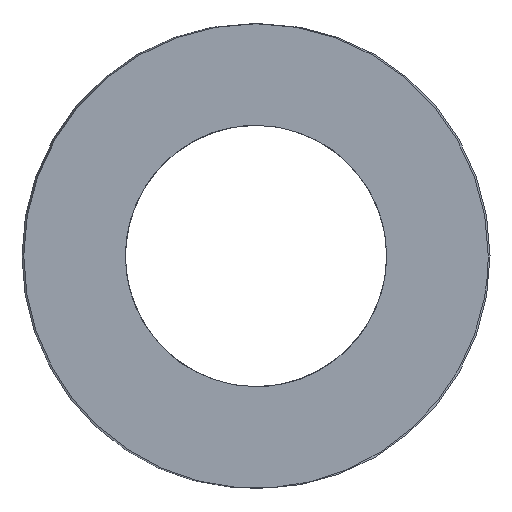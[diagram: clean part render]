
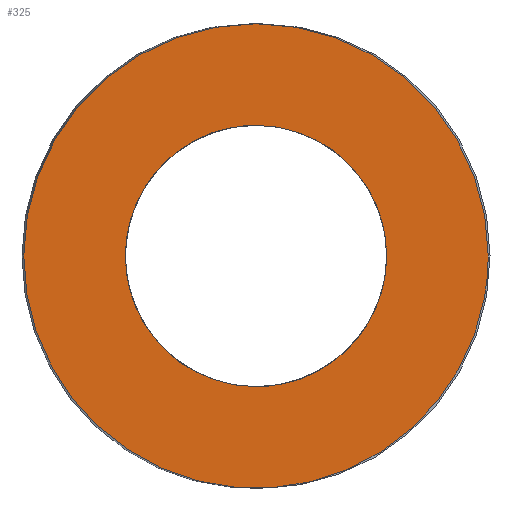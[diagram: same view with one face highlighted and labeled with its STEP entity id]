
A CAD part, left-side view. The second image highlights one B-rep face of the part: STEP entity #325.
In plain terms, the highlighted planar face has unit normal (-1, 0, 0).
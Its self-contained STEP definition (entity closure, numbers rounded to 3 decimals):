
#63=CARTESIAN_POINT('Vertex',(0.,18.75,0.)) ;
#89=CARTESIAN_POINT('Vertex',(0.,-18.75,0.)) ;
#93=CARTESIAN_POINT('Control Point',(0.,18.75,0.)) ;
#94=CARTESIAN_POINT('Control Point',(0.,18.75,-2.945)) ;
#95=CARTESIAN_POINT('Control Point',(0.,18.172,-5.89)) ;
#96=CARTESIAN_POINT('Control Point',(0.,17.015,-8.684)) ;
#97=CARTESIAN_POINT('Control Point',(0.,13.667,-13.667)) ;
#98=CARTESIAN_POINT('Control Point',(0.,8.684,-17.015)) ;
#99=CARTESIAN_POINT('Control Point',(0.,5.89,-18.172)) ;
#100=CARTESIAN_POINT('Control Point',(0.,0.,-19.328)) ;
#101=CARTESIAN_POINT('Control Point',(0.,-5.89,-18.172)) ;
#102=CARTESIAN_POINT('Control Point',(0.,-8.684,-17.015)) ;
#103=CARTESIAN_POINT('Control Point',(0.,-13.667,-13.667)) ;
#104=CARTESIAN_POINT('Control Point',(0.,-17.015,-8.684)) ;
#105=CARTESIAN_POINT('Control Point',(0.,-18.172,-5.89)) ;
#106=CARTESIAN_POINT('Control Point',(0.,-18.75,-2.945)) ;
#107=CARTESIAN_POINT('Control Point',(0.,-18.75,0.)) ;
#121=CARTESIAN_POINT('Axis2P3D Location',(0.,0.,0.)) ;
#256=CARTESIAN_POINT('Axis2P3D Location',(0.,9.375,0.)) ;
#266=CARTESIAN_POINT('Control Point',(0.,0.,-10.55)) ;
#267=CARTESIAN_POINT('Control Point',(0.,0.955,-10.55)) ;
#268=CARTESIAN_POINT('Control Point',(0.,1.909,-10.442)) ;
#269=CARTESIAN_POINT('Control Point',(0.,2.848,-10.226)) ;
#270=CARTESIAN_POINT('Control Point',(0.,4.66,-9.585)) ;
#271=CARTESIAN_POINT('Control Point',(0.,6.283,-8.556)) ;
#272=CARTESIAN_POINT('Control Point',(0.,7.032,-7.952)) ;
#273=CARTESIAN_POINT('Control Point',(0.,8.381,-6.584)) ;
#274=CARTESIAN_POINT('Control Point',(0.,9.391,-4.949)) ;
#275=CARTESIAN_POINT('Control Point',(0.,9.801,-4.077)) ;
#276=CARTESIAN_POINT('Control Point',(0.,10.416,-2.257)) ;
#277=CARTESIAN_POINT('Control Point',(0.,10.61,-0.345)) ;
#278=CARTESIAN_POINT('Control Point',(0.,10.597,0.618)) ;
#279=CARTESIAN_POINT('Control Point',(0.,10.355,2.524)) ;
#280=CARTESIAN_POINT('Control Point',(0.,9.693,4.328)) ;
#281=CARTESIAN_POINT('Control Point',(0.,9.26,5.189)) ;
#282=CARTESIAN_POINT('Control Point',(0.,8.209,6.797)) ;
#283=CARTESIAN_POINT('Control Point',(0.,6.825,8.13)) ;
#284=CARTESIAN_POINT('Control Point',(0.,6.06,8.715)) ;
#285=CARTESIAN_POINT('Control Point',(0.,4.458,9.674)) ;
#286=CARTESIAN_POINT('Control Point',(0.,2.687,10.262)) ;
#287=CARTESIAN_POINT('Control Point',(0.,1.801,10.454)) ;
#288=CARTESIAN_POINT('Control Point',(0.,0.9,10.55)) ;
#289=CARTESIAN_POINT('Control Point',(0.,0.,10.55)) ;
#290=CARTESIAN_POINT('Vertex',(0.,0.,-10.55)) ;
#292=CARTESIAN_POINT('Vertex',(0.,0.,10.55)) ;
#296=CARTESIAN_POINT('Control Point',(0.,0.,10.55)) ;
#297=CARTESIAN_POINT('Control Point',(0.,-0.955,10.55)) ;
#298=CARTESIAN_POINT('Control Point',(0.,-1.909,10.442)) ;
#299=CARTESIAN_POINT('Control Point',(0.,-2.848,10.226)) ;
#300=CARTESIAN_POINT('Control Point',(0.,-4.66,9.585)) ;
#301=CARTESIAN_POINT('Control Point',(0.,-6.283,8.556)) ;
#302=CARTESIAN_POINT('Control Point',(0.,-7.032,7.952)) ;
#303=CARTESIAN_POINT('Control Point',(0.,-8.381,6.584)) ;
#304=CARTESIAN_POINT('Control Point',(0.,-9.391,4.949)) ;
#305=CARTESIAN_POINT('Control Point',(0.,-9.801,4.077)) ;
#306=CARTESIAN_POINT('Control Point',(0.,-10.416,2.257)) ;
#307=CARTESIAN_POINT('Control Point',(0.,-10.61,0.345)) ;
#308=CARTESIAN_POINT('Control Point',(0.,-10.597,-0.618)) ;
#309=CARTESIAN_POINT('Control Point',(0.,-10.355,-2.524)) ;
#310=CARTESIAN_POINT('Control Point',(0.,-9.693,-4.328)) ;
#311=CARTESIAN_POINT('Control Point',(0.,-9.26,-5.189)) ;
#312=CARTESIAN_POINT('Control Point',(0.,-8.209,-6.797)) ;
#313=CARTESIAN_POINT('Control Point',(0.,-6.825,-8.13)) ;
#314=CARTESIAN_POINT('Control Point',(0.,-6.06,-8.715)) ;
#315=CARTESIAN_POINT('Control Point',(0.,-4.458,-9.674)) ;
#316=CARTESIAN_POINT('Control Point',(0.,-2.687,-10.262)) ;
#317=CARTESIAN_POINT('Control Point',(0.,-1.801,-10.454)) ;
#318=CARTESIAN_POINT('Control Point',(0.,-0.9,-10.55)) ;
#319=CARTESIAN_POINT('Control Point',(0.,0.,-10.55)) ;
#122=DIRECTION('Axis2P3D Direction',(1.,-0.,0.)) ;
#257=DIRECTION('Axis2P3D Direction',(-1.,0.,0.)) ;
#258=DIRECTION('Axis2P3D XDirection',(0.,1.,0.)) ;
#123=AXIS2_PLACEMENT_3D('Circle Axis2P3D',#121,#122,$) ;
#259=AXIS2_PLACEMENT_3D('Plane Axis2P3D',#256,#257,#258) ;
#262=ORIENTED_EDGE('',*,*,#108,.T.) ;
#263=ORIENTED_EDGE('',*,*,#125,.T.) ;
#322=ORIENTED_EDGE('',*,*,#294,.T.) ;
#323=ORIENTED_EDGE('',*,*,#320,.T.) ;
#324=FACE_BOUND('',#321,.T.) ;
#325=ADVANCED_FACE('392-B40-051',(#264,#324),#260,.T.) ;
#92=B_SPLINE_CURVE_WITH_KNOTS('',5,(#93,#94,#95,#96,#97,#98,#99,#100,#101,#102,#103,#104,#105,#106,#107),.UNSPECIFIED.,.F.,.U.,(6,3,3,3,6),(-29.452,-14.726,0.,14.726,29.452),.UNSPECIFIED.) ;
#265=B_SPLINE_CURVE_WITH_KNOTS('',5,(#266,#267,#268,#269,#270,#271,#272,#273,#274,#275,#276,#277,#278,#279,#280,#281,#282,#283,#284,#285,#286,#287,#288,#289),.UNSPECIFIED.,.F.,.U.,(6,3,3,3,3,3,3,6),(0.,6.751,13.502,20.253,27.004,33.755,40.506,46.872),.UNSPECIFIED.) ;
#295=B_SPLINE_CURVE_WITH_KNOTS('',5,(#296,#297,#298,#299,#300,#301,#302,#303,#304,#305,#306,#307,#308,#309,#310,#311,#312,#313,#314,#315,#316,#317,#318,#319),.UNSPECIFIED.,.F.,.U.,(6,3,3,3,3,3,3,6),(0.,6.751,13.502,20.253,27.004,33.755,40.506,46.872),.UNSPECIFIED.) ;
#124=CIRCLE('generated circle',#123,18.75) ;
#108=EDGE_CURVE('',#64,#90,#92,.T.) ;
#125=EDGE_CURVE('',#90,#64,#124,.F.) ;
#294=EDGE_CURVE('',#291,#293,#265,.T.) ;
#320=EDGE_CURVE('',#293,#291,#295,.T.) ;
#261=EDGE_LOOP('',(#262,#263)) ;
#321=EDGE_LOOP('',(#322,#323)) ;
#264=FACE_OUTER_BOUND('',#261,.T.) ;
#260=PLANE('Plane',#259) ;
#64=VERTEX_POINT('',#63) ;
#90=VERTEX_POINT('',#89) ;
#291=VERTEX_POINT('',#290) ;
#293=VERTEX_POINT('',#292) ;
